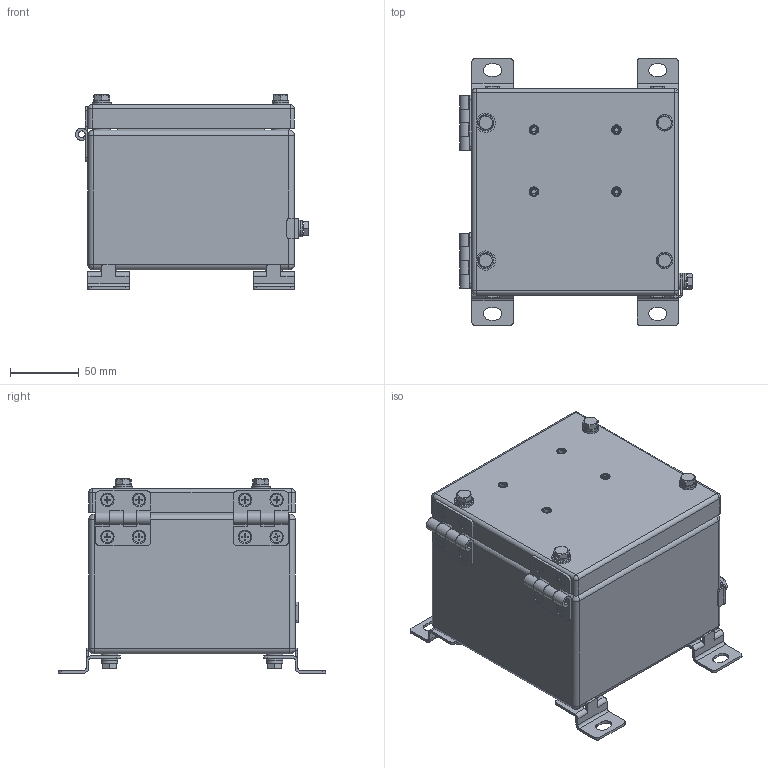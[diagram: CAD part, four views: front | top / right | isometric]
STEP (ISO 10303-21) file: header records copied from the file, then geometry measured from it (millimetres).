
FILE_DESCRIPTION((''),'2;1');
FILE_NAME('\\192.168.5.25\cortem_klient\INVENTOR БАЗА МОДЕЛЕЙ\Актуальная база моделей для отдела продаж\КСРВ-М\КСРВ-М151512_М3.stp','2019-04-09T14:33:03',('A.S.Kozlov'),(''),'Autodesk Inventor 2012','Autodesk Inventor 2012','');
FILE_SCHEMA(('CONFIG_CONTROL_DESIGN'));
Length unit declared in the file: millimetre
Products named in the file (1): КСРВ-(параметрическая модель)_Внешний контур_1
Bounding box: 169.19 x 194 x 141.2 mm (x, y, z)
Surface area: 191513.5 mm2 (no closed solid volume)
Topology: 0 solids, 84 shells, 450 faces, 1520 edges, 1092 vertices
Faces by surface type: plane 249, cylinder 155, cone 33, sphere 12, torus 1
Full cylindrical faces by diameter (mm): 4.917 x1, 5 x4, 5.9 x5, 6.1 x1, 10 x2, 12 x12, 12.7 x4, 14 x2
Entity records: 17150 total; most frequent: CARTESIAN_POINT 3430, DIRECTION 2781, ORIENTED_EDGE 2282, EDGE_CURVE 1452, VERTEX_POINT 1076, AXIS2_PLACEMENT_3D 1013, VECTOR 755, LINE 755
